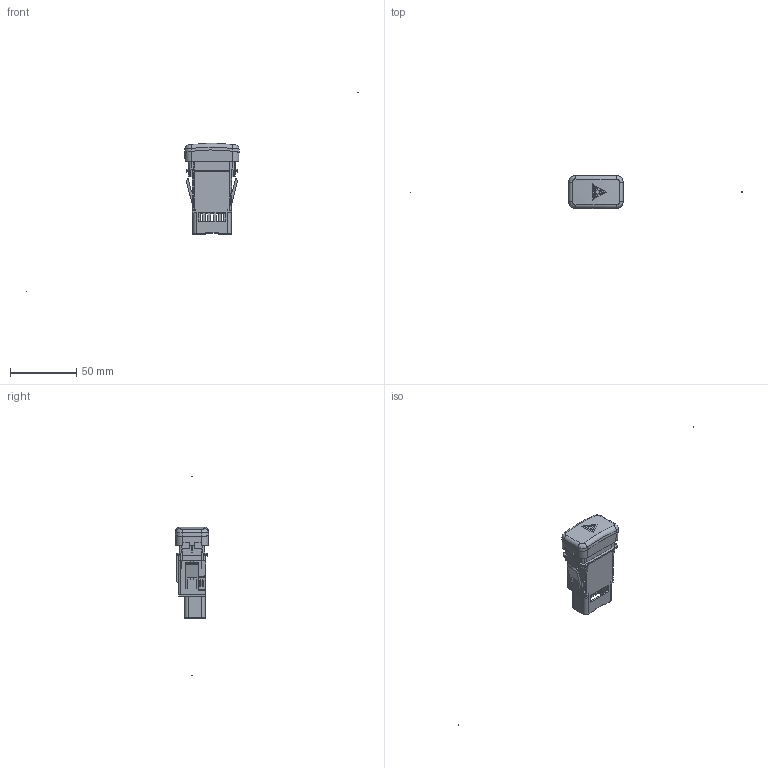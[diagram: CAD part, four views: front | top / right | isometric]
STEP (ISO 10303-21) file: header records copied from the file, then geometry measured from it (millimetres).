
FILE_DESCRIPTION(/* description */ ('AP242 STEP file','CAx-IF Rec.Pracs.---Representation and Presentation of Product Manufacturing Information (PMI)---4.0.9---2020-12-09','CAx-IF Rec.Pracs.---User Defined Attributes---1.8---2021-02-18','CAx-IF Rec.Pracs.---3D Tessellated Geometry---1.0---2015-12-17','CAx-IF Rec.Pracs.---Model Styling and Organization---1.6---2018-08-17'),/* implementation_level */ '2;1');
FILE_NAME(/* name */ 'SWITCH.stp',/* time_stamp */ '2024-03-03T13:47:26+09:00',/* author */ (''),/* organization */ (''),/* preprocessor_version */ 'ST-DEVELOPER v20',/* originating_system */ 'Elysium STEP Translator v10.0.0.7',/* authorisation */ '');
FILE_SCHEMA (('AP242_MANAGED_MODEL_BASED_3D_ENGINEERING_MIM_LF { 1 0 10303 442 4 1 4 }'));
Products named in the file (19): KNOB; KNOB_AI; CASE; SPRING; CONTACT; HOLDER; BASE; PCB; LED; DIODE; RESISTANCE; POSITION; SECTION_REF; SWITCH; KNOB_COMP; AXIS_PART; PCB COMP; BASE_COMP; UNIT_COMP
Assembly tree (18 placements, depth 5):
  SWITCH
    KNOB_COMP
      KNOB
      KNOB_AI
    AXIS_PART
    UNIT_COMP
      CASE
      SPRING
      CONTACT
      HOLDER
      BASE_COMP
        BASE
        PCB COMP
          PCB
          LED
          DIODE
          RESISTANCE
    POSITION
    SECTION_REF
Bounding box: 250 x 25 x 150 mm (x, y, z)
Volume: 19205.5 mm3; surface area: 33163.4 mm2
Topology: 20 solids, 22 shells, 2200 faces, 7089 edges, 5739 vertices
Faces by surface type: plane 1674, cylinder 399, bspline 85, torus 32, cone 8, sphere 2
Entity records: 86326 total; most frequent: CARTESIAN_POINT 19561, ORIENTED_EDGE 12502, STYLED_ITEM 11552, EDGE_CURVE 6261, VECTOR 5648, LINE 5648, VERTEX_POINT 4082, AXIS2_PLACEMENT_3D 2977
